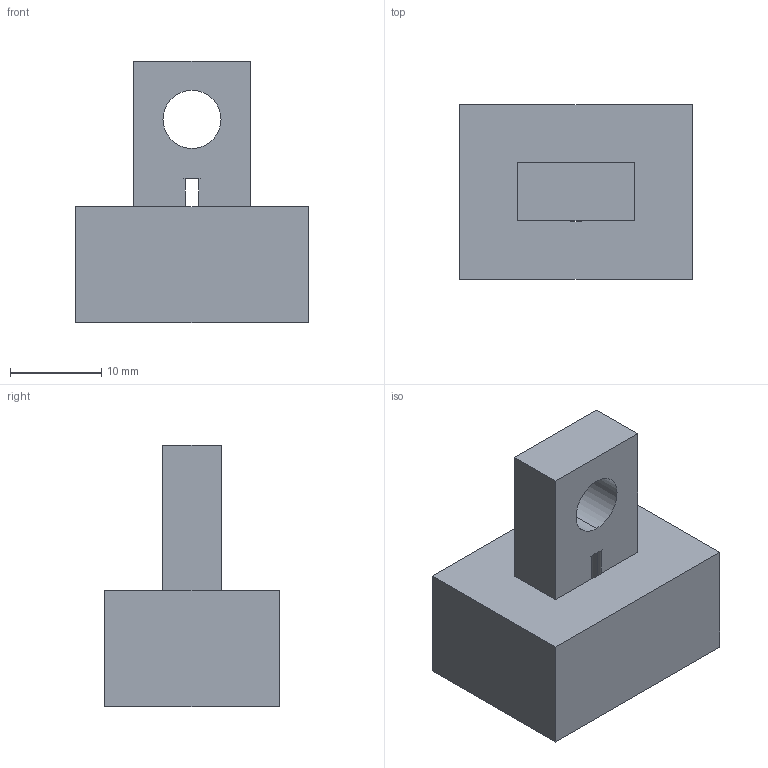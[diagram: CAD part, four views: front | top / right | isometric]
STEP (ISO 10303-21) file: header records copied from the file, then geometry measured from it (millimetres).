
FILE_DESCRIPTION (( 'STEP AP203' ), '1' );
FILE_NAME ('269-18-222.STEP', '2020-03-03T18:31:26', ( '' ), ( '' ), 'SwSTEP 2.0', 'SolidWorks 2017', '' );
FILE_SCHEMA (( 'CONFIG_CONTROL_DESIGN' ));
Length unit declared in the file: inch
Products named in the file (1): 269-18-222
Bounding box: 25.4 x 19.05 x 28.57 mm (x, y, z)
Volume: 6658.4 mm3; surface area: 3061.5 mm2
Topology: 1 solids, 1 shells, 19 faces, 56 edges, 35 vertices
Faces by surface type: plane 11, cone 4, cylinder 4
Entity records: 715 total; most frequent: CARTESIAN_POINT 119, ORIENTED_EDGE 108, DIRECTION 106, EDGE_CURVE 54, LINE 38, VECTOR 38, VERTEX_POINT 35, AXIS2_PLACEMENT_3D 34
